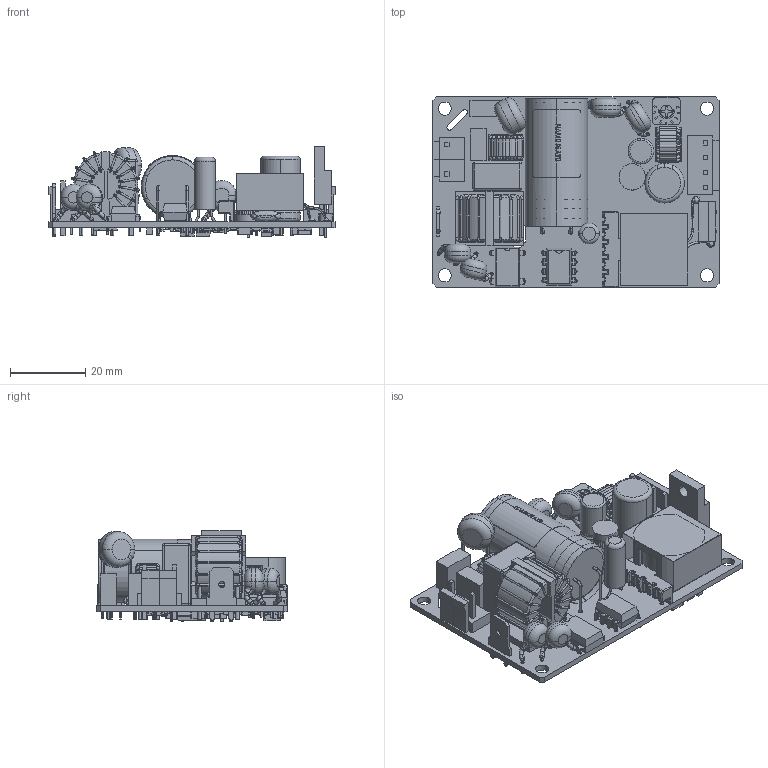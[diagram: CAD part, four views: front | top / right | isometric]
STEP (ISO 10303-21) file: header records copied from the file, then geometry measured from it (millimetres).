
FILE_DESCRIPTION (( 'STEP AP214' ), '1' );
FILE_NAME ('CUS30M_PILOT_NEW.STEP', '2017-09-20T02:38:18', ( '' ), ( '' ), 'SwSTEP 2.0', 'SolidWorks 2014', '' );
FILE_SCHEMA (( 'AUTOMOTIVE_DESIGN' ));
Length unit declared in the file: millimetre
Products named in the file (132): SC-76; C-Y1-7X5P10H10_152M; R3216; SC-70; DIP8; C1608; L-NSL675; C-ELE-10_0P5H16; C-ELE-16_0P7_5H31_5LR; C-FIL-13X7_5P10H16_5; C3216; FG_TAB8_1X0_8H14_2; C-ELE-5_0P5H14; L-YCA819-35-03; F-8_5X4_0P5_08H8_5; SOD-123-S; TO-220FM; SC-59; S-FLAT; ccb2220119; R1608; R-CT-6EP-0R9; I-FLAT; R-CT-6EP-0R9_______; CN-B4P-VH; RTV2; CUS30M_PILOT_NEW; XCA851-32-01_A; DPAD1_8_1_0 PADE; C-Y1-7X5P10H10; BEAD; 4LSOP_thermal; RTV; T-BCC-19-5S Xmer; TH-9.5X6P7_5H12; C-Y1-8X5P10H11 _152M; C-ELE-6_3P2_5H11; TO-220FM_______; L-18X14_5P13X10H18_5; C-Y1-8X5P10H11 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
Assembly tree (95 placements, depth 2):
  SC-76
  R3216
  DIP8
  C1608
  L-NSL675
Bounding box: 76.25 x 50.8 x 24.1 mm (x, y, z)
Volume: 28639.5 mm3; surface area: 28961.9 mm2
Topology: 209 solids, 211 shells, 4044 faces, 10456 edges, 6708 vertices
Faces by surface type: plane 2108, cylinder 1130, torus 708, bspline 84, sphere 8, cone 6
Entity records: 118135 total; most frequent: CARTESIAN_POINT 24945, DIRECTION 14670, ORIENTED_EDGE 14038, EDGE_CURVE 7019, AXIS2_PLACEMENT_3D 5620, VERTEX_POINT 4495, LINE 3430, VECTOR 3430
